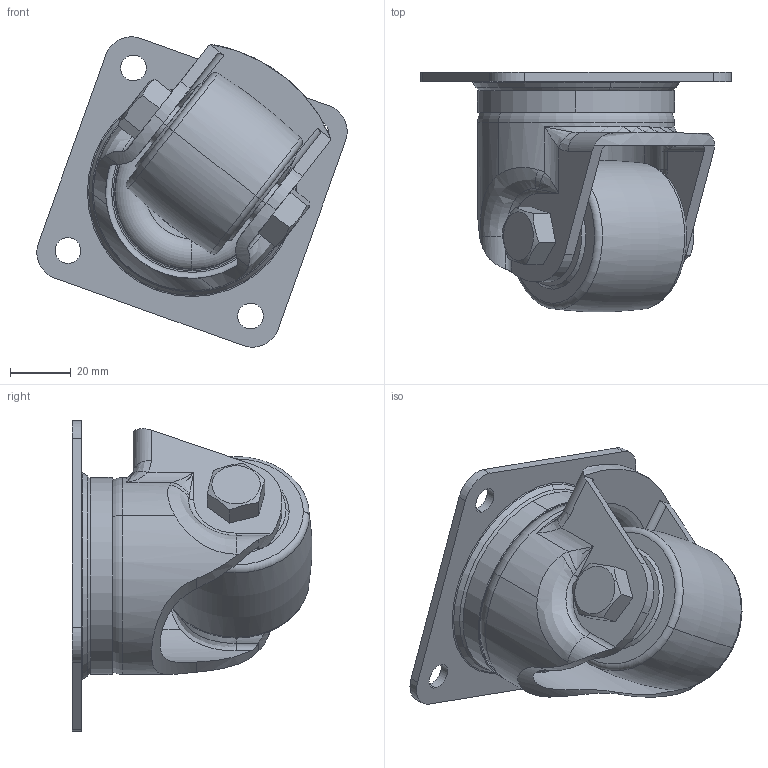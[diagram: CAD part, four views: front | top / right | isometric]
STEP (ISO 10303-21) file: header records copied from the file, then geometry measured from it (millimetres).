
FILE_DESCRIPTION (( 'STEP AP203' ), '1' );
FILE_NAME ('×°ÅäÌå1.STEP', '2024-07-04T11:42:39', ( 'pc' ), ( 'Microsoft' ), 'SwSTEP 2.0', 'SolidWorks 2014', '' );
FILE_SCHEMA (( 'CONFIG_CONTROL_DESIGN' ));
Length unit declared in the file: millimetre
Products named in the file (8): 3; 4; 5; 6; 7; 蚾饜极1; 1; 2
Assembly tree (8 placements, depth 2):
  蚾饜极1
    1
    2
    3
    4
    5
    6
    7  x2
Bounding box: 102.43 x 78.91 x 102.43 mm (x, y, z)
Volume: 161910.8 mm3; surface area: 66727.1 mm2
Topology: 8 solids, 8 shells, 229 faces, 524 edges, 324 vertices
Faces by surface type: cylinder 84, plane 57, torus 48, cone 20, bspline 20
Entity records: 8737 total; most frequent: CARTESIAN_POINT 2964, DIRECTION 1101, ORIENTED_EDGE 980, EDGE_CURVE 490, AXIS2_PLACEMENT_3D 479, VERTEX_POINT 304, CIRCLE 272, EDGE_LOOP 254
